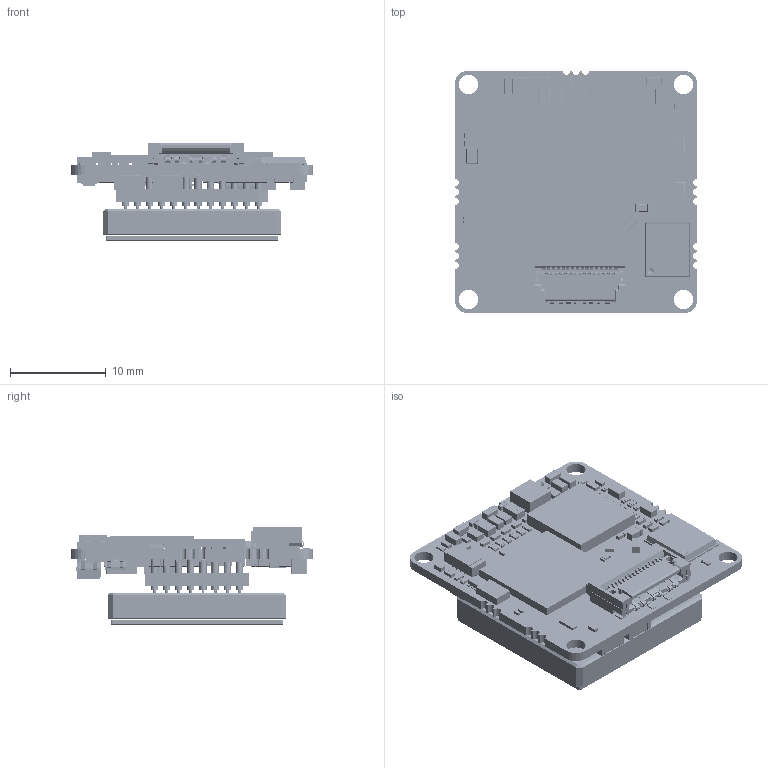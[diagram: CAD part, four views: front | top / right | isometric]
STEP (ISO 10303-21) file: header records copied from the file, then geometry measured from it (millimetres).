
FILE_DESCRIPTION(('Open CASCADE Model'),'2;1');
FILE_NAME('Open CASCADE Shape Model','2015-04-07T12:58:49',('Author'),( 'Open CASCADE'),'Open CASCADE STEP processor 6.2','Open CASCADE 6.2' ,'Unknown');
FILE_SCHEMA(('AUTOMOTIVE_DESIGN { 1 0 10303 214 1 1 1 1 }'));
Length unit declared in the file: millimetre
Products named in the file (283): PCB; Board; J1; 5022441530; Open CASCADE STEP translator 6.2 7.2.1.1; Open CASCADE STEP translator 6.2 7.2.1.2; C136; ChipCap(0603); C135; C134; C133; C132; U14; 602635136; Extruded; U11; User_Library-VFQFPN8_(MLP8); L30; 0402_L; C117; C116; ChipCap(0402); C115; C114; C113; C112; C111; C110; C109; C108; C107; C106; C103; R31; ChipRes(0402); R30; C98; C94; C65; C58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
Assembly tree (462 placements, depth 4):
  PCB
    Board
    J1
      5022441530
        Open CASCADE STEP translator 6.2 7.2.1.1
        Open CASCADE STEP translator 6.2 7.2.1.2
    C136
      ChipCap(0603)
    C135
      ChipCap(0603)
    C134
      ChipCap(0603)
    C133
      ChipCap(0603)
    C132
      ChipCap(0603)
    U14
      602635136
        Extruded
    U11
      User_Library-VFQFPN8_(MLP8)
    L30
      0402_L
    C117
      ChipCap(0603)
    C116
      ChipCap(0402)
    C115
      ChipCap(0402)
    C114
      ChipCap(0402)
    C113
      ChipCap(0603)
    C112
      ChipCap(0402)
    C111
      ChipCap(0402)
    C110
      ChipCap(0402)
    C109
      ChipCap(0402)
    C108
      ChipCap(0402)
    C107
      ChipCap(0603)
    C106
      ChipCap(0402)
    C103
      ChipCap(0603)
    R31
      ChipRes(0402)
    R30
      ChipRes(0402)
    C98
      ChipCap(0402)
    C94
      ChipCap(0402)
    C65
      ChipCap(0603)
    C58
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Bounding box: 25.43 x 25.43 x 10.23 mm (x, y, z)
Volume: 2241.9 mm3; surface area: 7424.1 mm2
Topology: 447 solids, 447 shells, 9559 faces, 23440 edges, 14432 vertices
Faces by surface type: plane 6261, cylinder 2048, sphere 557, bspline 400, cone 194, torus 99
Full cylindrical faces by diameter (mm): 0.3 x95, 0.5 x95, 0.76 x190, 2 x4
Entity records: 292592 total; most frequent: CARTESIAN_POINT 84862, DIRECTION 31422, ORIENTED_EDGE 19364, PCURVE 19364, DEFINITIONAL_REPRESENTATION 19364, LINE 18575, VECTOR 18575, EDGE_CURVE 9682
